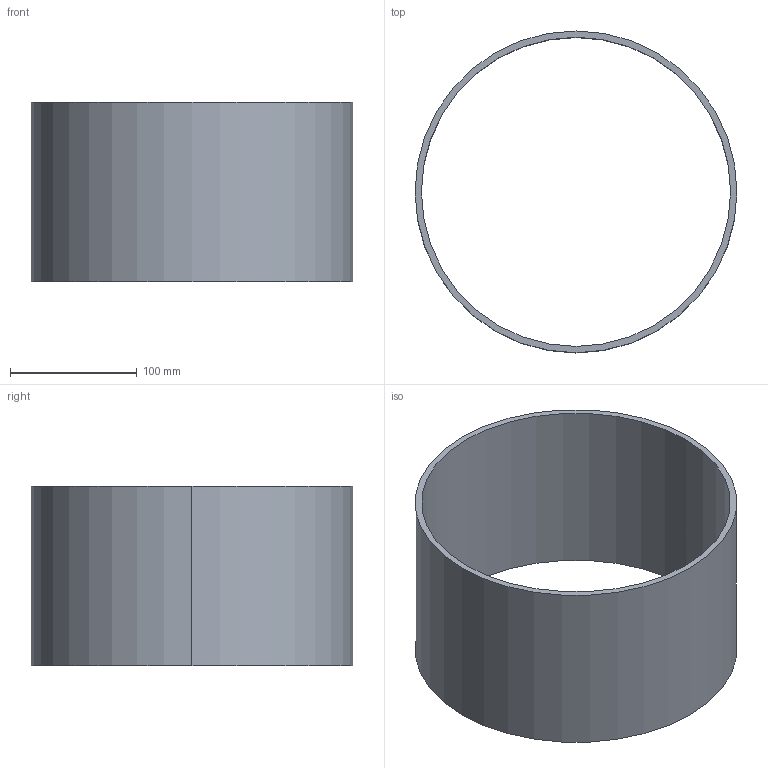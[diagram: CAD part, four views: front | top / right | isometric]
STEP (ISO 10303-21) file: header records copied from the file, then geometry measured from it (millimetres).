
FILE_DESCRIPTION(('CATIA V5 STEP Exchange'),'2;1');
FILE_NAME('C:\_Andres\UNIVERSIDAD\IQS\ASIGNATURAS\DAO\EXF\EXF-15161c\1original\Vallsmadella_Quintanilla_Ej07-tabla_v27.stp','2016-03-04T21:16:36+00:00',('none'),('none'),'CATIA Version 5 Release 20 SP 1 (IN-10)','CATIA V5 STEP AP203','none');
FILE_SCHEMA(('CONFIG_CONTROL_DESIGN'));
Length unit declared in the file: millimetre
Products named in the file (1): Vallsmadella_Quintanilla_Ej07-tabla_v27
Bounding box: 254 x 254 x 142 mm (x, y, z)
Volume: 555402.2 mm3; surface area: 229983.4 mm2
Topology: 1 solids, 1 shells, 6 faces, 13 edges, 10 vertices
Faces by surface type: cylinder 4, plane 2
Entity records: 208 total; most frequent: CARTESIAN_POINT 29, ORIENTED_EDGE 24, DIRECTION 23, AXIS2_PLACEMENT_3D 14, EDGE_CURVE 12, CIRCLE 8, EDGE_LOOP 8, VERTEX_POINT 8
